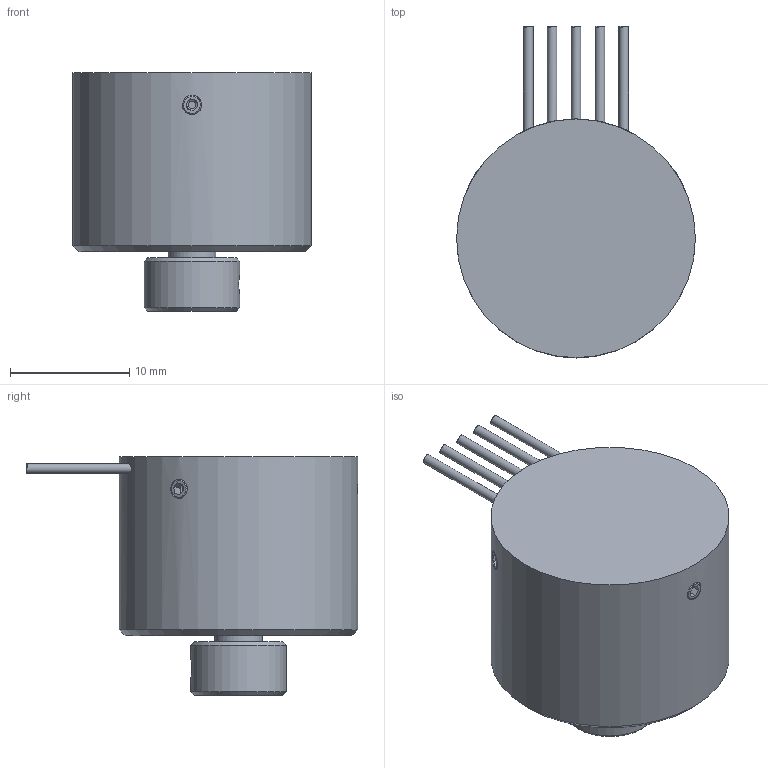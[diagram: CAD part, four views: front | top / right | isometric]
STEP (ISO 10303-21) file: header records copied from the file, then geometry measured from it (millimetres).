
FILE_DESCRIPTION(('STEP AP242'),'1');
FILE_NAME('P.stp','2025-08-19T08:43:17',(' '),(' '),'Spatial InterOp 3D',' ',' ');
FILE_SCHEMA(('AP242_MANAGED_MODEL_BASED_3D_ENGINEERING_MIM_LF {1 0 10303 442 1 1 4}'));
Length unit declared in the file: millimetre
Products named in the file (1): L8E01C MEH-17-＊＊＊P
Bounding box: 20 x 27.79 x 20 mm (x, y, z)
Volume: 4889.4 mm3; surface area: 1986.3 mm2
Topology: 1 solids, 1 shells, 87 faces, 198 edges, 124 vertices
Faces by surface type: plane 45, cylinder 27, cone 15
Full cylindrical faces by diameter (mm): 0.8 x5, 1.6 x9, 2 x1, 4 x1, 6 x1, 8 x1, 20 x1
Entity records: 3226 total; most frequent: CARTESIAN_POINT 751, DIRECTION 344, ORIENTED_EDGE 280, EDGE_CURVE 140, EDGE_LOOP 139, AXIS2_PLACEMENT_3D 136, FACE_OUTER_BOUND 106, VERTEX_POINT 105
